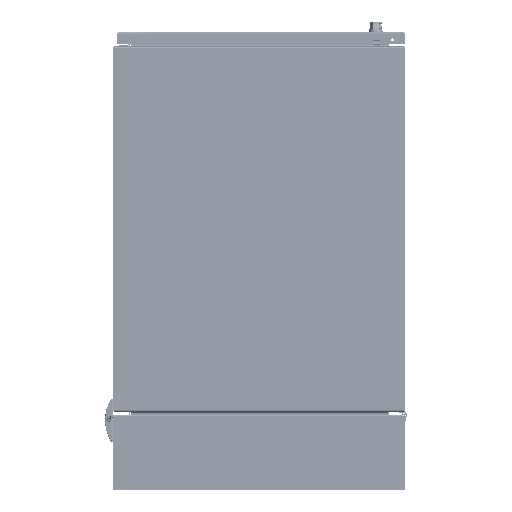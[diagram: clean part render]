
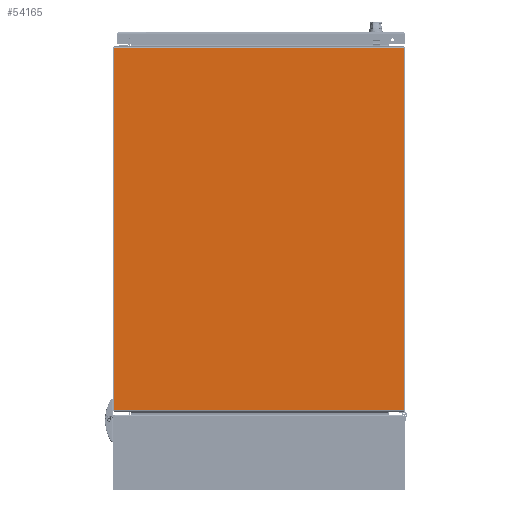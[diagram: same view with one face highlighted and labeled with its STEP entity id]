
A CAD part, front view. The second image highlights one B-rep face of the part: STEP entity #54165.
In plain terms, the highlighted planar face has unit normal (0, -1, 0).
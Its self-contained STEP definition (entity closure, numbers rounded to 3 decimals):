
#21278 = ORIENTED_EDGE ( 'NONE', *, *, #28431, .F. ) ;
#21292 = ORIENTED_EDGE ( 'NONE', *, *, #28450, .T. ) ;
#21305 = ORIENTED_EDGE ( 'NONE', *, *, #28452, .T. ) ;
#21339 = ORIENTED_EDGE ( 'NONE', *, *, #28433, .F. ) ;
#28431 = EDGE_CURVE ( 'NONE', #131432, #131310, #44746, .T. ) ;
#28433 = EDGE_CURVE ( 'NONE', #131294, #131732, #44761, .T. ) ;
#28450 = EDGE_CURVE ( 'NONE', #131432, #131732, #44812, .T. ) ;
#28452 = EDGE_CURVE ( 'NONE', #131294, #131310, #44825, .T. ) ;
#44746 = LINE ( 'NONE', #151338, #44762 ) ;
#44753 = VECTOR ( 'NONE', #150584, 1000. ) ;
#44761 = LINE ( 'NONE', #150849, #44753 ) ;
#44762 = VECTOR ( 'NONE', #151292, 1000. ) ;
#44812 = LINE ( 'NONE', #150394, #44824 ) ;
#44821 = VECTOR ( 'NONE', #151017, 1000. ) ;
#44824 = VECTOR ( 'NONE', #150430, 1000. ) ;
#44825 = LINE ( 'NONE', #150546, #44821 ) ;
#54165 = ADVANCED_FACE ( 'NONE', ( #144504 ), #64036, .F. ) ;
#59484 = CARTESIAN_POINT ( 'NONE',  ( -298.171, 0., -370.885 ) ) ;
#59528 = CARTESIAN_POINT ( 'NONE',  ( 298.171, 0., -370.885 ) ) ;
#59790 = CARTESIAN_POINT ( 'NONE',  ( 298.171, 0., 370.885 ) ) ;
#60318 = CARTESIAN_POINT ( 'NONE',  ( -298.171, 0., 370.885 ) ) ;
#64036 = PLANE ( 'NONE',  #118409 ) ;
#64066 = CARTESIAN_POINT ( 'NONE',  ( 298.171, 0., 375. ) ) ;
#64089 = DIRECTION ( 'NONE',  ( 0., 1., 0. ) ) ;
#64092 = DIRECTION ( 'NONE',  ( 0., 0., 1. ) ) ;
#97948 = EDGE_LOOP ( 'NONE', ( #21305, #21278, #21292, #21339 ) ) ;
#118409 = AXIS2_PLACEMENT_3D ( 'NONE', #64066, #64089, #64092 ) ;
#131294 = VERTEX_POINT ( 'NONE', #59484 ) ;
#131310 = VERTEX_POINT ( 'NONE', #59528 ) ;
#131432 = VERTEX_POINT ( 'NONE', #59790 ) ;
#131732 = VERTEX_POINT ( 'NONE', #60318 ) ;
#144504 = FACE_OUTER_BOUND ( 'NONE', #97948, .T. ) ;
#150394 = CARTESIAN_POINT ( 'NONE',  ( 298.171, 0., 370.885 ) ) ;
#150430 = DIRECTION ( 'NONE',  ( -1., 0., 0. ) ) ;
#150546 = CARTESIAN_POINT ( 'NONE',  ( -298.171, 0., -370.885 ) ) ;
#150584 = DIRECTION ( 'NONE',  ( 0., 0., 1. ) ) ;
#150849 = CARTESIAN_POINT ( 'NONE',  ( -298.171, 0., -375. ) ) ;
#151017 = DIRECTION ( 'NONE',  ( 1., 0., 0. ) ) ;
#151292 = DIRECTION ( 'NONE',  ( 0., 0., -1. ) ) ;
#151338 = CARTESIAN_POINT ( 'NONE',  ( 298.171, 0., -375. ) ) ;
